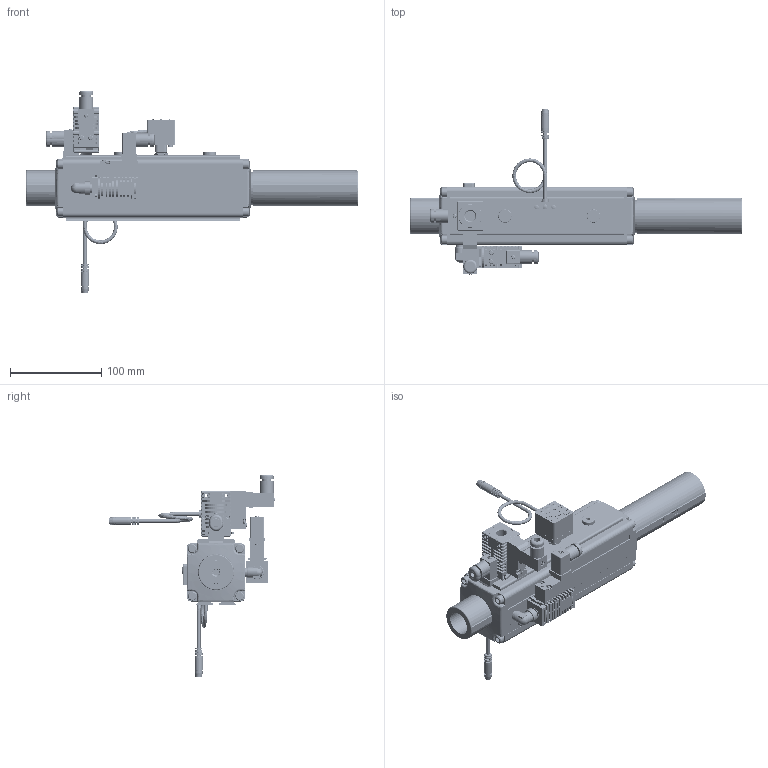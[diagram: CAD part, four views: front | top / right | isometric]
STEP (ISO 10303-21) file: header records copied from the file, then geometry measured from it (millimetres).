
FILE_DESCRIPTION( ( 'Unknown' ), '1' );
FILE_NAME( 'C:/Documents and Settings/Administrator/官帕 拳搁/PM 犁荐沥/PM303X1A-34-A3 R3-DL-S2.stp', 'Unknown', ( 'Unknown' ), ( 'Unknown' ), 'PSStep 10.0', 'Unknown', ' ' );
FILE_SCHEMA( ( 'AUTOMOTIVE_DESIGN { 1 0 10303 214 1 1 1 1 }' ) );
Length unit declared in the file: millimetre
Products named in the file (8): Assem1; 1_0_35_0; VTS-01_34_0; Double Tread 18M-18M_34_0; VMS14_DIN_PT14_7_0; VP20-03-F1-C_34; MS18 DIN_28; Elbow_18_double
Bounding box: 363.6 x 181.79 x 222.32 mm (x, y, z)
Volume: 1375583.8 mm3; surface area: 551182 mm2
Topology: 14 solids, 150 shells, 6330 faces, 16318 edges, 10630 vertices
Faces by surface type: plane 4030, cylinder 1694, cone 272, torus 180, bspline 114, extrusion 26, sphere 14
Full cylindrical faces by diameter (mm): 0.13 x2, 1 x24, 1.158 x2, 1.2 x4, 1.4 x4, 2.2 x4, 2.5 x12, 2.8 x2, 3 x16, 3.2 x4, 3.242 x8, 3.4 x18, 4 x8, 4.134 x16, 4.2 x8, 4.9 x2, 5 x4, 5.1 x2, 5.2 x8, 5.4 x4, 5.5 x6, 5.6 x2, 6 x24, 6.35 x2, 6.5 x20, 6.535 x4, 7 x10, 7.2 x6, 7.9 x2, 8 x4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
Entity records: 123644 total; most frequent: CARTESIAN_POINT 23320, DIRECTION 15309, ORIENTED_EDGE 15050, EDGE_CURVE 7525, VECTOR 5197, LINE 5184, VERTEX_POINT 5107, AXIS2_PLACEMENT_3D 5056
